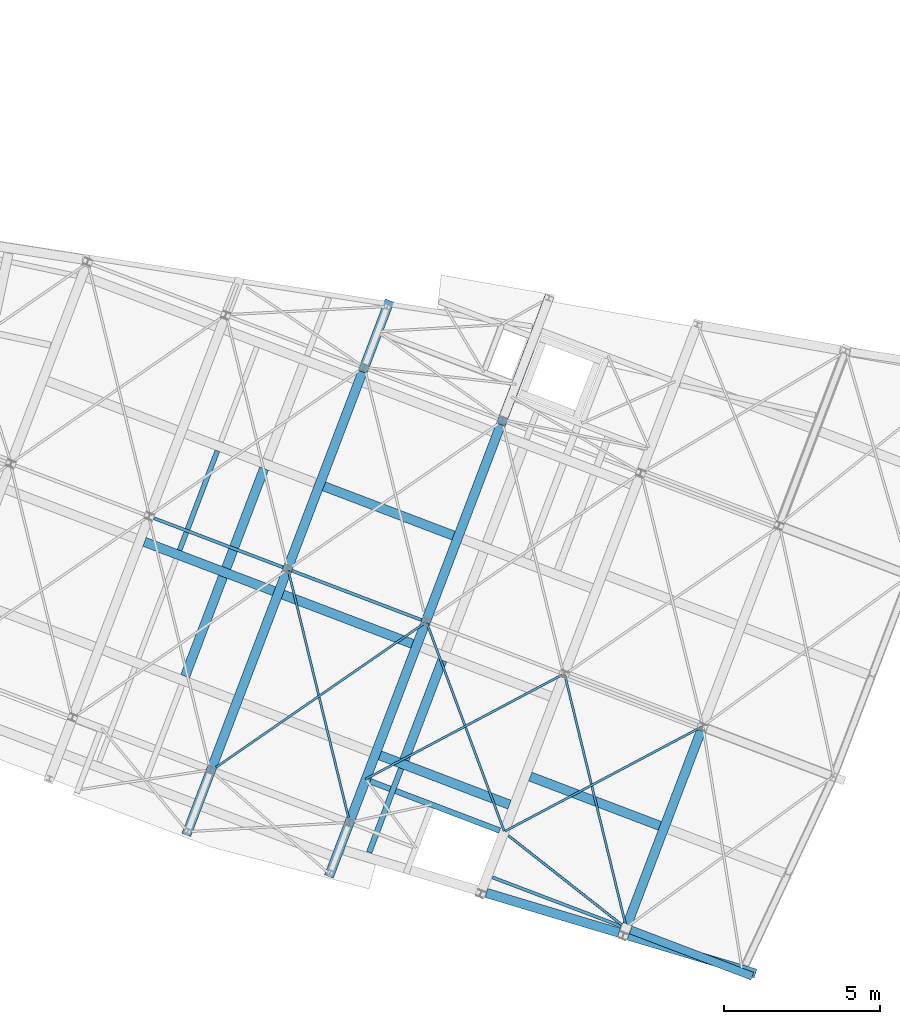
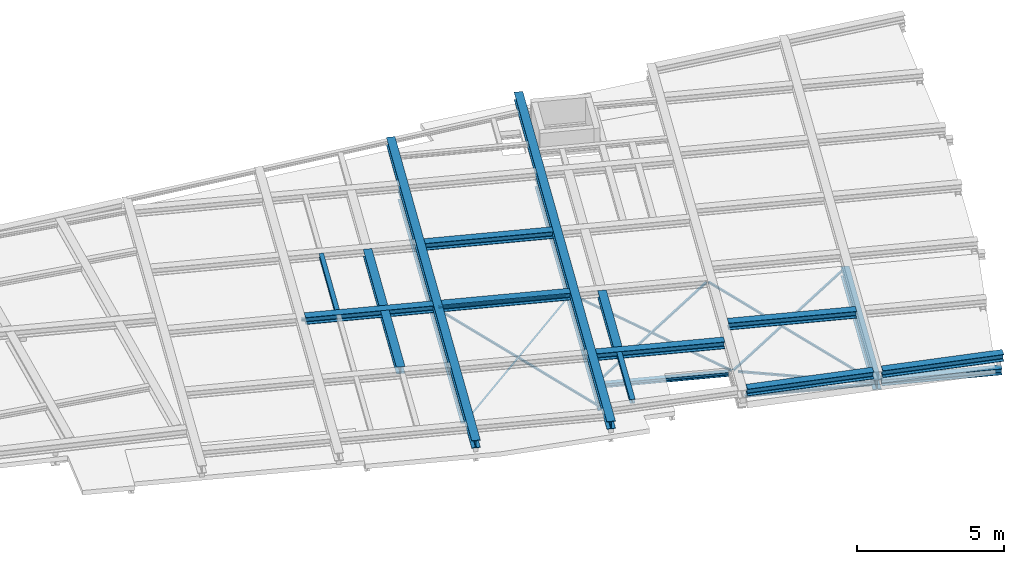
# One storey, part 14 of 21: 29 beams.
"""IFC2X3 building model written with IfcOpenShell, lengths in millimetres."""

from ifc_helpers import new_model, entity, si_unit, converted_unit, derived_unit, direction, frame, frame_2d, origin, place, context, subcontext, project, spatial, polyline, circle_curve, parameter, trimmed, segment, composite_curve, i_section, outline, extrude, material, type_object, element, save


model = new_model("IFC2X3")

# Units and contexts
model_context = context("Model", 3, precision=0.01, world=origin(), true_north=direction((6.123233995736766e-17, 1.0)))
body_context = subcontext(model_context, "Body", "Model", "MODEL_VIEW")
ifc_project = project(units=[si_unit("LENGTHUNIT", "METRE", prefix="MILLI"), converted_unit("PLANEANGLEUNIT", "DEGREE", entity("IfcPlaneAngleMeasure", 0.017453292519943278), si_unit("PLANEANGLEUNIT", "RADIAN"), dimensions=[0, 0, 0, 0, 0, 0, 0]), si_unit("AREAUNIT", "SQUARE_METRE"), derived_unit("THERMALTRANSMITTANCEUNIT", [(si_unit("MASSUNIT", "GRAM", prefix="KILO"), 1), (si_unit("THERMODYNAMICTEMPERATUREUNIT", "KELVIN"), -1), (si_unit("TIMEUNIT", "SECOND"), -3)])], contexts=[model_context])

# Site, building, storey
site_placement = place(None, frame((-72937.88054949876, 11621.45624098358, 0.0), z_axis=(0.0, 0.0, 1.0), x_axis=(0.9346418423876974, -0.35559053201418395, 0.0)))
site = spatial("IfcSite", under=ifc_project, at=site_placement, Name="Default", CompositionType="ELEMENT")
building_placement = place(site_placement, origin())
building = spatial("IfcBuilding", under=site, at=building_placement, CompositionType="ELEMENT")
storey_placement = place(building_placement, frame((0.0, 0.0, 4250.0)))
storey = spatial("IfcBuildingStorey", under=building, at=storey_placement, Name="01 eerste verdieping", CompositionType="ELEMENT", Elevation=4250.0)

# Beams
ifc_material_1 = material(Name="metaal_staal_generiek")
beam_type_1 = type_object("IfcBeamType", Name="DIE38", PredefinedType="BEAM")
beam_1_placement = place(storey_placement, frame((52840.0, 15000.0, -80.0), z_axis=(0.0, 0.0, 1.0), x_axis=(0.0, 1.0, 0.0)))
element("IfcBeam", 1, at=beam_1_placement, inside=storey, type_object=beam_type_1, material=ifc_material_1, Name="28.11_Stalen balk HEA", ObjectType="stalen balk HEA profiel", context=body_context, shape_type="SweptSolid", body=[
    extrude(i_section(OverallWidth=300.0000000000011, OverallDepth=369.9999999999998, WebThickness=10.999999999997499, FlangeThickness=19.000000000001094, FilletRadius=26.999999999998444, at=frame_2d((2.7000623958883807e-13, -8.65441052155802e-12), x_axis=(0.0, 1.0))), frame((125.0, 0.0, -185.0), z_axis=(1.0, 0.0, 0.0), x_axis=(0.0, 0.0, -1.0)), (0.0, 0.0, 1.0), 13497.300000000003),
])
beam_2_placement = place(storey_placement, frame((48110.0, 15000.0, -80.0), z_axis=(0.0, 0.0, 1.0), x_axis=(0.0, 1.0, 0.0)))
element("IfcBeam", 2, at=beam_2_placement, inside=storey, type_object=beam_type_1, material=ifc_material_1, Name="28.11_Stalen balk HEA", ObjectType="stalen balk HEA profiel", context=body_context, shape_type="SweptSolid", body=[
    extrude(i_section(OverallWidth=300.0000000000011, OverallDepth=369.9999999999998, WebThickness=10.999999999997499, FlangeThickness=19.000000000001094, FilletRadius=26.999999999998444, at=frame_2d((2.7000623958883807e-13, 8.65441052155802e-12), x_axis=(0.0, 1.0))), frame((125.0, 0.0, -185.0), z_axis=(1.0, 0.0, 0.0), x_axis=(0.0, 0.0, -1.0)), (0.0, 0.0, 1.0), 13497.300000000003),
])
beam_type_2 = type_object("IfcBeamType", Name="DIE10", PredefinedType="BEAM")
beam_3_placement = place(storey_placement, frame((43380.0, 21880.0, -80.0)))
element("IfcBeam", 3, at=beam_3_placement, inside=storey, type_object=beam_type_2, material=ifc_material_1, Name="28.11_Stalen balk HEA", ObjectType="stalen balk HEA profiel", context=body_context, shape_type="SweptSolid", body=[
    extrude(i_section(OverallWidth=99.99999999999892, OverallDepth=95.99999999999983, WebThickness=4.999999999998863, FlangeThickness=8.000000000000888, FilletRadius=12.000000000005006, at=frame_2d((1.623590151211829e-12, 2.1671553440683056e-12), x_axis=(0.0, 1.0))), frame((162.6999999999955, 0.0, -218.0), z_axis=(1.0, 0.0, 0.0), x_axis=(0.0, 0.0, -1.0)), (0.0, 0.0, 1.0), 4404.600000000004),
])
beam_4_placement = place(storey_placement, frame((48110.0, 21880.0, -80.0)))
element("IfcBeam", 4, at=beam_4_placement, inside=storey, type_object=beam_type_2, material=ifc_material_1, Name="28.11_Stalen balk HEA", ObjectType="stalen balk HEA profiel", context=body_context, shape_type="SweptSolid", body=[
    extrude(i_section(OverallWidth=99.99999999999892, OverallDepth=95.99999999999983, WebThickness=4.999999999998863, FlangeThickness=8.000000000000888, FilletRadius=12.000000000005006, at=frame_2d((1.623590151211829e-12, 2.1671553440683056e-12), x_axis=(0.0, 1.0))), frame((162.6999999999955, 0.0, -218.0), z_axis=(1.0, 0.0, 0.0), x_axis=(0.0, 0.0, -1.0)), (0.0, 0.0, 1.0), 4417.300000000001),
])
beam_5_placement = place(storey_placement, frame((62300.0, 15000.0, -80.0), z_axis=(0.0, 0.0, 1.0), x_axis=(-1.0, 0.0, 0.0)))
element("IfcBeam", 5, at=beam_5_placement, inside=storey, type_object=beam_type_2, material=ifc_material_1, Name="28.11_Stalen balk HEA", ObjectType="stalen balk HEA profiel", context=body_context, shape_type="SweptSolid", body=[
    extrude(i_section(OverallWidth=100.0000000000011, OverallDepth=95.99999999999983, WebThickness=5.0000000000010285, FlangeThickness=8.000000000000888, FilletRadius=11.999999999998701, at=frame_2d((1.0835776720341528e-12, -1.0835776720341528e-12), x_axis=(0.0, 1.0))), frame((162.69999999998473, 0.0, -218.0), z_axis=(1.0, 0.0, 0.0), x_axis=(0.0, 0.0, -1.0)), (0.0, 0.0, 1.0), 4397.300000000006),
])
beam_type_3 = type_object("IfcBeamType", Name="DIE26", PredefinedType="BEAM")
beam_6_placement = place(storey_placement, frame((66520.0002742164, 15000.0, -80.0), z_axis=(0.0, 0.0, 1.0), x_axis=(-1.0, 0.0, 0.0)))
element("IfcBeam", 6, at=beam_6_placement, inside=storey, type_object=beam_type_3, material=ifc_material_1, Name="28.11_Stalen balk HEA", ObjectType="stalen balk HEA profiel", context=body_context, shape_type="SweptSolid", body=[
    extrude(i_section(OverallWidth=259.9999999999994, OverallDepth=250.00000000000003, WebThickness=7.50000000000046, FlangeThickness=12.500000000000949, FilletRadius=24.000000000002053, at=frame_2d((2.7000623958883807e-13, -1.0800249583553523e-12), x_axis=(0.0, 1.0))), frame((-99.29986289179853, 0.0, -125.0), z_axis=(1.0, 0.0, 0.0), x_axis=(0.0, 0.0, -1.0)), (0.0, 0.0, 1.0), 4156.6),
])
beam_type_4 = type_object("IfcBeamType", Name="L70x7", PredefinedType="NOTDEFINED")
beam_7_placement = place(storey_placement, frame((57570.0, 21880.0, -270.0), z_axis=(0.0, 0.0, 1.0), x_axis=(-0.6588990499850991, -0.7522313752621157, 0.0)))
element("IfcBeam", 7, at=beam_7_placement, inside=storey, type_object=beam_type_4, material=ifc_material_1, Name="28.11_SF_WVB-L-Gelijkzijdig:L70x7", ObjectType="28.11_SF_WVB-L-Gelijkzijdig:L70x7", context=body_context, shape_type="SweptSolid", body=[
    extrude(outline(composite_curve([segment(polyline([(-26.444444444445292, -43.55555555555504), (-23.944444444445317, -43.55555555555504)]), True, "CONTINUOUS"), segment(trimmed(circle_curve(frame_2d((-23.944444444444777, -39.05555555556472), x_axis=(0.0, -1.0)), 4.499999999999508), [parameter(0.0)], [parameter(90.00000000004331)], True, "PARAMETER"), True, "CONTINUOUS"), segment(polyline([(-19.444444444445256, -39.05555555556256), (-19.444444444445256, 10.444444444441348)]), True, "CONTINUOUS"), segment(trimmed(circle_curve(frame_2d((-10.444444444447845, 10.444444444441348), x_axis=(-1.0, 0.0)), 8.999999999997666), [parameter(269.99999999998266)], [parameter(0.0)], True, "PARAMETER"), False, "CONTINUOUS"), segment(polyline([(-10.444444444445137, 19.444444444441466), (39.05555555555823, 19.444444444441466)]), True, "CONTINUOUS"), segment(trimmed(circle_curve(frame_2d((39.05555555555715, 23.944444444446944), x_axis=(0.0, -1.0)), 4.500000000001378), [parameter(0.0)], [parameter(89.99999999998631)], True, "PARAMETER"), True, "CONTINUOUS"), segment(polyline([(43.55555555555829, 23.944444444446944), (43.55555555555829, 26.444444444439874)]), True, "CONTINUOUS"), segment(polyline([(43.55555555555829, 26.444444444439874), (-26.444444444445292, 26.444444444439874)]), True, "CONTINUOUS"), segment(polyline([(-26.444444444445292, 26.444444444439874), (-26.444444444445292, -43.55555555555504)]), True, "CONTINUOUS")], self_intersect=False)), frame((61.52108460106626, -6.744444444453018, -6.7444444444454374), z_axis=(1.0, 0.0, 0.0), x_axis=(0.0, 0.0, -1.0)), (0.0, 0.0, 1.0), 7117.100000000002),
])
beam_8_placement = place(storey_placement, frame((52840.0, 15000.0, -270.0), z_axis=(0.0, 0.0, 1.0), x_axis=(-0.5665288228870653, 0.8240419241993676, 0.0)))
element("IfcBeam", 8, at=beam_8_placement, inside=storey, type_object=beam_type_4, material=ifc_material_1, Name="28.11_SF_WVB-L-Gelijkzijdig:L70x7", ObjectType="28.11_SF_WVB-L-Gelijkzijdig:L70x7", context=body_context, shape_type="SweptSolid", body=[
    extrude(outline(composite_curve([segment(polyline([(-26.444444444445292, -43.55555555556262), (-23.944444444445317, -43.55555555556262)]), True, "CONTINUOUS"), segment(trimmed(circle_curve(frame_2d((-23.94444444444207, -39.05555555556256), x_axis=(0.0, -1.0)), 4.499999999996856), [parameter(0.0)], [parameter(90.00000000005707)], True, "PARAMETER"), True, "CONTINUOUS"), segment(polyline([(-19.444444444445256, -39.055555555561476), (-19.444444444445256, 10.44444444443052)]), True, "CONTINUOUS"), segment(trimmed(circle_curve(frame_2d((-10.44444444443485, 10.444444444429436), x_axis=(-1.0, 0.0)), 9.000000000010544), [parameter(270.00000000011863)], [parameter(0.0)], True, "PARAMETER"), False, "CONTINUOUS"), segment(polyline([(-10.444444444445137, 19.44444444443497), (39.05555555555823, 19.44444444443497)]), True, "CONTINUOUS"), segment(trimmed(circle_curve(frame_2d((39.055555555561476, 23.94444444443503), x_axis=(0.0, -1.0)), 4.499999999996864), [parameter(0.0)], [parameter(90.00000000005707)], True, "PARAMETER"), True, "CONTINUOUS"), segment(polyline([(43.55555555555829, 23.944444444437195), (43.55555555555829, 26.444444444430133)]), True, "CONTINUOUS"), segment(polyline([(43.55555555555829, 26.444444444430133), (-26.444444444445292, 26.444444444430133)]), True, "CONTINUOUS"), segment(polyline([(-26.444444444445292, 26.444444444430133), (-26.444444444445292, -43.55555555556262)]), True, "CONTINUOUS")], self_intersect=False)), frame((177.94488537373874, -6.744444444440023, -6.7444444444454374), z_axis=(1.0, 0.0, 0.0), x_axis=(0.0, 0.0, -1.0)), (0.0, 0.0, 1.0), 8109.699999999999),
])
beam_9_placement = place(storey_placement, frame((48110.0, 15000.0, -270.0), z_axis=(0.0, 0.0, 1.0), x_axis=(0.5665288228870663, 0.824041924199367, 0.0)))
element("IfcBeam", 9, at=beam_9_placement, inside=storey, type_object=beam_type_4, material=ifc_material_1, Name="28.11_SF_WVB-L-Gelijkzijdig:L70x7", ObjectType="28.11_SF_WVB-L-Gelijkzijdig:L70x7", context=body_context, shape_type="SweptSolid", body=[
    extrude(outline(composite_curve([segment(polyline([(-26.444444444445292, -43.55555555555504), (-23.944444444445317, -43.55555555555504)]), True, "CONTINUOUS"), segment(trimmed(circle_curve(frame_2d((-23.94444444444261, -39.05555555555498), x_axis=(0.0, -1.0)), 4.499999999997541), [parameter(0.0)], [parameter(90.00000000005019)], True, "PARAMETER"), True, "CONTINUOUS"), segment(polyline([(-19.444444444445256, -39.05555555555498), (-19.444444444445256, 10.444444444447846)]), True, "CONTINUOUS"), segment(trimmed(circle_curve(frame_2d((-10.44444444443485, 10.444444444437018), x_axis=(-1.0, 0.0)), 9.000000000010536), [parameter(270.0000000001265)], [parameter(0.0)], True, "PARAMETER"), False, "CONTINUOUS"), segment(polyline([(-10.444444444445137, 19.444444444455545), (39.05555555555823, 19.444444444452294)]), True, "CONTINUOUS"), segment(trimmed(circle_curve(frame_2d((39.055555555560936, 23.944444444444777), x_axis=(0.0, -1.0)), 4.499999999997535), [parameter(0.0)], [parameter(90.00000000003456)], True, "PARAMETER"), True, "CONTINUOUS"), segment(polyline([(43.55555555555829, 23.944444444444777), (43.55555555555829, 26.444444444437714)]), True, "CONTINUOUS"), segment(polyline([(43.55555555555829, 26.444444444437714), (-26.444444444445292, 26.444444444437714)]), True, "CONTINUOUS"), segment(polyline([(-26.444444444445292, 26.444444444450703), (-26.444444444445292, -43.55555555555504)]), True, "CONTINUOUS")], self_intersect=False)), frame((189.39488537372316, -6.744444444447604, -6.7444444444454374), z_axis=(1.0, 0.0, 0.0), x_axis=(0.0, 0.0, -1.0)), (0.0, 0.0, 1.0), 8119.300000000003),
])
beam_10_placement = place(storey_placement, frame((62300.00101093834, 21880.0, -270.0), z_axis=(0.0, 0.0, 1.0), x_axis=(-0.6588990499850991, -0.7522313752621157, 0.0)))
element("IfcBeam", 10, at=beam_10_placement, inside=storey, type_object=beam_type_4, material=ifc_material_1, Name="28.11_SF_WVB-L-Gelijkzijdig:L70x7", ObjectType="28.11_SF_WVB-L-Gelijkzijdig:L70x7", context=body_context, shape_type="SweptSolid", body=[
    extrude(outline(composite_curve([segment(polyline([(-26.444444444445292, -43.555555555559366), (-23.944444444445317, -43.555555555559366)]), True, "CONTINUOUS"), segment(trimmed(circle_curve(frame_2d((-23.944444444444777, -39.05555555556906), x_axis=(0.0, -1.0)), 4.499999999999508), [parameter(0.0)], [parameter(90.00000000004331)], True, "PARAMETER"), True, "CONTINUOUS"), segment(polyline([(-19.444444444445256, -39.055555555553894), (-19.444444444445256, 10.444444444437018)]), True, "CONTINUOUS"), segment(trimmed(circle_curve(frame_2d((-10.444444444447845, 10.444444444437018), x_axis=(-1.0, 0.0)), 8.999999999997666), [parameter(269.99999999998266)], [parameter(0.0)], True, "PARAMETER"), False, "CONTINUOUS"), segment(polyline([(-10.444444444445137, 19.444444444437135), (39.05555555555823, 19.444444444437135)]), True, "CONTINUOUS"), segment(trimmed(circle_curve(frame_2d((39.05555555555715, 23.944444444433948), x_axis=(0.0, -1.0)), 4.500000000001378), [parameter(0.0)], [parameter(89.99999999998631)], True, "PARAMETER"), True, "CONTINUOUS"), segment(polyline([(43.55555555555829, 23.944444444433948), (43.55555555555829, 26.444444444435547)]), True, "CONTINUOUS"), segment(polyline([(43.55555555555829, 26.444444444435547), (-26.444444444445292, 26.444444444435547)]), True, "CONTINUOUS"), segment(polyline([(-26.444444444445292, 26.444444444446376), (-26.444444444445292, -43.555555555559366)]), True, "CONTINUOUS")], self_intersect=False)), frame((0.021084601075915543, -6.744444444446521, -6.7444444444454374), z_axis=(1.0, 0.0, 0.0), x_axis=(0.0, 0.0, -1.0)), (0.0, 0.0, 1.0), 7126.100000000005),
])
beam_type_5 = type_object("IfcBeamType", Name="L70x7", PredefinedType="JOIST")
beam_11_placement = place(storey_placement, frame((57569.99949449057, 16480.00012850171, -270.0), z_axis=(0.0, 0.0, 1.0), x_axis=(-0.6588989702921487, 0.7522314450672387, 0.0)))
element("IfcBeam", 11, at=beam_11_placement, inside=storey, type_object=beam_type_5, material=ifc_material_1, Name="28.11_SF_WVB-L-Gelijkzijdig:L70x7", ObjectType="28.11_SF_WVB-L-Gelijkzijdig:L70x7", context=body_context, shape_type="SweptSolid", body=[
    extrude(outline(composite_curve([segment(polyline([(-26.444444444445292, -43.55555555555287), (-23.944444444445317, -43.55555555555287)]), True, "CONTINUOUS"), segment(trimmed(circle_curve(frame_2d((-23.94444444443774, -39.05555555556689), x_axis=(0.0, -1.0)), 4.4999999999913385), [parameter(0.0)], [parameter(90.0000000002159)], True, "PARAMETER"), True, "CONTINUOUS"), segment(polyline([(-19.444444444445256, -39.055555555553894), (-19.444444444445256, 10.444444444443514)]), True, "CONTINUOUS"), segment(trimmed(circle_curve(frame_2d((-10.444444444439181, 10.444444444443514), x_axis=(-1.0, 0.0)), 9.000000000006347), [parameter(270.0000000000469)], [parameter(0.0)], True, "PARAMETER"), False, "CONTINUOUS"), segment(polyline([(-10.444444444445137, 19.444444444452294), (39.05555555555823, 19.444444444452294)]), True, "CONTINUOUS"), segment(trimmed(circle_curve(frame_2d((39.05555555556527, 23.944444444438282), x_axis=(0.0, -1.0)), 4.499999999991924), [parameter(0.0)], [parameter(90.00000000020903)], True, "PARAMETER"), True, "CONTINUOUS"), segment(polyline([(43.55555555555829, 23.94444444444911), (43.55555555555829, 26.44444444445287)]), True, "CONTINUOUS"), segment(polyline([(43.55555555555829, 26.44444444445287), (-26.444444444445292, 26.44444444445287)]), True, "CONTINUOUS"), segment(polyline([(-26.444444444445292, 26.44444444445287), (-26.444444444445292, -43.55555555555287)]), True, "CONTINUOUS")], self_intersect=False)), frame((33.570751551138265, -6.744444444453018, -6.7444444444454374), z_axis=(1.0, 0.0, 0.0), x_axis=(0.0, 0.0, -1.0)), (0.0, 0.0, 1.0), 7088.100000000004),
])
beam_12_placement = place(storey_placement, frame((62300.0, 15000.0, -270.0), z_axis=(0.0, 0.0, 1.0), x_axis=(-0.566528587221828, 0.8240420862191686, 0.0)))
element("IfcBeam", 12, at=beam_12_placement, inside=storey, type_object=beam_type_5, material=ifc_material_1, Name="28.11_SF_WVB-L-Gelijkzijdig:L70x7", ObjectType="28.11_SF_WVB-L-Gelijkzijdig:L70x7", context=body_context, shape_type="SweptSolid", body=[
    extrude(outline(composite_curve([segment(polyline([(-26.444444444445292, -43.5555555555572), (-23.944444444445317, -43.5555555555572)]), True, "CONTINUOUS"), segment(trimmed(circle_curve(frame_2d((-23.94444444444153, -39.055555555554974), x_axis=(0.0, -1.0)), 4.499999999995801), [parameter(0.0)], [parameter(90.00000000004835)], True, "PARAMETER"), True, "CONTINUOUS"), segment(polyline([(-19.444444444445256, -39.055555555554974), (-19.444444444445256, 10.444444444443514)]), True, "CONTINUOUS"), segment(trimmed(circle_curve(frame_2d((-10.44444444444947, 10.444444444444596), x_axis=(-1.0, 0.0)), 8.999999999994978), [parameter(269.99999999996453)], [parameter(0.0)], True, "PARAMETER"), False, "CONTINUOUS"), segment(polyline([(-10.444444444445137, 19.444444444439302), (39.05555555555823, 19.444444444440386)]), True, "CONTINUOUS"), segment(trimmed(circle_curve(frame_2d((39.055555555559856, 23.944444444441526), x_axis=(0.0, -1.0)), 4.499999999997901), [parameter(0.0)], [parameter(90.00000000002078)], True, "PARAMETER"), True, "CONTINUOUS"), segment(polyline([(43.55555555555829, 23.944444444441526), (43.55555555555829, 26.444444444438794)]), True, "CONTINUOUS"), segment(polyline([(43.55555555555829, 26.444444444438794), (-26.444444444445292, 26.444444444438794)]), True, "CONTINUOUS"), segment(polyline([(-26.444444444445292, 26.444444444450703), (-26.444444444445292, -43.5555555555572)]), True, "CONTINUOUS")], self_intersect=False)), frame((89.99534324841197, -6.744444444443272, -6.7444444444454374), z_axis=(1.0, 0.0, 0.0), x_axis=(0.0, 0.0, -1.0)), (0.0, 0.0, 1.0), 8212.100000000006),
])
beam_type_6 = type_object("IfcBeamType", Name="HEA400", PredefinedType="BEAM")
beam_13_placement = place(storey_placement, frame((62300.0, 21755.0, -80.0), z_axis=(0.0, 0.0, 1.0), x_axis=(0.0, -1.0, 0.0)))
element("IfcBeam", 13, at=beam_13_placement, inside=storey, type_object=beam_type_6, material=ifc_material_1, Name="28.11_Stalen balk HEA", ObjectType="stalen balk HEA profiel", context=body_context, shape_type="SweptSolid", body=[
    extrude(i_section(OverallWidth=300.0000000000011, OverallDepth=390.0000000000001, WebThickness=10.999999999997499, FlangeThickness=19.000000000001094, FilletRadius=26.999999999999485, at=frame_2d((0.0, 1.7323031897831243e-11), x_axis=(0.0, 1.0))), frame((0.0, 0.0, -195.0), z_axis=(1.0, 0.0, 0.0), x_axis=(0.0, 0.0, -1.0)), (0.0, 0.0, 1.0), 6875.000000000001),
])
ifc_material_2 = material(Name="metaal_staal_profiel_s235")
beam_type_7 = type_object("IfcBeamType", Name="HEB320", PredefinedType="BEAM")
beam_14_placement = place(storey_placement, frame((52840.0, 13295.839397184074, 450.0), z_axis=(0.0, 0.0, 1.0), x_axis=(0.0, 1.0, 0.0)))
element("IfcBeam", 14, at=beam_14_placement, inside=storey, type_object=beam_type_7, material=ifc_material_2, Name="28.11_Stalen balk HEB", ObjectType="28.11_SF_BalkHEB:HEB320", context=body_context, shape_type="SweptSolid", body=[
    extrude(i_section(OverallWidth=300.0000000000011, OverallDepth=319.99999999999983, WebThickness=11.500000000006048, FlangeThickness=20.500000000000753, FilletRadius=26.999999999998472, at=frame_2d((5.400124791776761e-13, -8.65441052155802e-12), x_axis=(0.0, 1.0))), frame((-124.98509784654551, 0.0, -160.0), z_axis=(1.0, 0.0, 0.0), x_axis=(0.0, 0.0, -1.0)), (0.0, 0.0, 1.0), 19845.9),
])
beam_15_placement = place(storey_placement, frame((48110.0, 12915.614638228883, 450.0), z_axis=(0.0, 0.0, 1.0), x_axis=(0.0, 1.0, 0.0)))
element("IfcBeam", 15, at=beam_15_placement, inside=storey, type_object=beam_type_7, material=ifc_material_2, Name="28.11_Stalen balk HEB", ObjectType="28.11_SF_BalkHEB:HEB320", context=body_context, shape_type="SweptSolid", body=[
    extrude(i_section(OverallWidth=300.0000000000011, OverallDepth=319.99999999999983, WebThickness=11.500000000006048, FlangeThickness=20.500000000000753, FilletRadius=26.999999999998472, at=frame_2d((5.400124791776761e-13, 8.65441052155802e-12), x_axis=(0.0, 1.0))), frame((-124.98758226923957, 0.0, -160.0), z_axis=(1.0, 0.0, 0.0), x_axis=(0.0, 0.0, -1.0)), (0.0, 0.0, 1.0), 18270.099999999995),
])
beam_type_8 = type_object("IfcBeamType", Name="HEA300", PredefinedType="BEAM")
beam_16_placement = place(storey_placement, frame((62300.0, 18440.00012850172, 450.0), z_axis=(0.0, 0.0, 1.0), x_axis=(-1.0, 0.0, 0.0)))
element("IfcBeam", 16, at=beam_16_placement, inside=storey, type_object=beam_type_8, material=ifc_material_2, Name="28.11_Stalen balk HEA", ObjectType="stalen balk HEA profiel", context=body_context, shape_type="SweptSolid", body=[
    extrude(i_section(OverallWidth=300.0000000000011, OverallDepth=290.0000000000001, WebThickness=8.500000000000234, FlangeThickness=14.000000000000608, FilletRadius=27.000000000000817, at=frame_2d((0.0, -1.0800249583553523e-12), x_axis=(0.0, 1.0))), frame((150.0, 0.0, -145.0), z_axis=(1.0, 0.0, 0.0), x_axis=(0.0, 0.0, -1.0)), (0.0, 0.0, 1.0), 4429.999999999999),
])
for number, where, z_axis, x_axis, name in (
    (17, (52840.0, 24765.00012850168, 450.0), (0.0, 0.0, 1.0), (-1.0, 0.0, 0.0), "28.11_Stalen balk HEA"),
    (18, (52840.0, 21065.000128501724, 450.0), (0.0, 0.0, 1.0), (-1.0, 0.0, 0.0), "28.11_Stalen balk HEA"),
    (19, (48110.0, 21065.000128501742, 450.0), (0.0, 0.0, 1.0), (-1.0, 0.0, 0.0), "28.11_Stalen balk HEA"),
):
    element("IfcBeam", number, at=place(storey_placement, frame(where, z_axis=z_axis, x_axis=x_axis)), inside=storey, type_object=beam_type_8, material=ifc_material_2, Name=name, ObjectType="stalen balk HEA profiel", context=body_context, shape_type="SweptSolid", body=[
        extrude(i_section(OverallWidth=299.99999999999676, OverallDepth=290.0000000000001, WebThickness=8.500000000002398, FlangeThickness=14.000000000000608, FilletRadius=26.999999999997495, at=frame_2d((0.0, -2.1600499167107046e-12), x_axis=(0.0, 1.0))), frame((150.0, 0.0, -145.0), z_axis=(1.0, 0.0, 0.0), x_axis=(0.0, 0.0, -1.0)), (0.0, 0.0, 1.0), 4429.999999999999),
    ])
beam_17_placement = place(storey_placement, frame((57570.0, 17365.000128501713, 450.0), z_axis=(0.0, 0.0, 1.0), x_axis=(-1.0, 0.0, 0.0)))
element("IfcBeam", 20, at=beam_17_placement, inside=storey, type_object=beam_type_8, material=ifc_material_2, Name="28.11_Stalen balk HEA", ObjectType="stalen balk HEA profiel", context=body_context, shape_type="SweptSolid", body=[
    extrude(i_section(OverallWidth=300.0000000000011, OverallDepth=290.0000000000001, WebThickness=8.500000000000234, FlangeThickness=14.000000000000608, FilletRadius=27.000000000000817, at=frame_2d((0.0, -1.0800249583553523e-12), x_axis=(0.0, 1.0))), frame((150.0, 0.0, -145.0), z_axis=(1.0, 0.0, 0.0), x_axis=(0.0, 0.0, -1.0)), (0.0, 0.0, 1.0), 4429.999999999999),
])
beam_18_placement = place(storey_placement, frame((46270.0, 17365.00012850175, 450.0), z_axis=(0.0, 0.0, 1.0), x_axis=(0.0, 1.0, 0.0)))
element("IfcBeam", 21, at=beam_18_placement, inside=storey, type_object=beam_type_8, material=ifc_material_2, Name="28.11_Stalen balk HEA", ObjectType="stalen balk HEA profiel", context=body_context, shape_type="SweptSolid", body=[
    extrude(i_section(OverallWidth=300.0000000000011, OverallDepth=290.0000000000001, WebThickness=8.499999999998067, FlangeThickness=14.000000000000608, FilletRadius=26.999999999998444, at=frame_2d((1.6200374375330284e-12, 0.0), x_axis=(0.0, 1.0))), frame((150.0, 0.0, -145.0), z_axis=(1.0, 0.0, 0.0), x_axis=(0.0, 0.0, -1.0)), (0.0, 0.0, 1.0), 3400.000000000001),
])
beam_19_placement = place(storey_placement, frame((46270.0, 21065.000128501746, 450.0), z_axis=(0.0, 0.0, 1.0), x_axis=(0.0, 1.0, 0.0)))
element("IfcBeam", 22, at=beam_19_placement, inside=storey, type_object=beam_type_8, material=ifc_material_2, Name="28.11_Stalen balk HEA", ObjectType="stalen balk HEA profiel", context=body_context, shape_type="SweptSolid", body=[
    extrude(i_section(OverallWidth=300.0000000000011, OverallDepth=290.0000000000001, WebThickness=8.499999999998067, FlangeThickness=14.000000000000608, FilletRadius=26.999999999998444, at=frame_2d((1.6200374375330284e-12, 0.0), x_axis=(0.0, 1.0))), frame((150.0, 0.0, -145.0), z_axis=(1.0, 0.0, 0.0), x_axis=(0.0, 0.0, -1.0)), (0.0, 0.0, 1.0), 3400.0000000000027),
])
beam_20_placement = place(storey_placement, frame((53770.0, 17365.00012850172, 450.0), z_axis=(0.0, 0.0, 1.0), x_axis=(0.0, 1.0, 0.0)))
element("IfcBeam", 23, at=beam_20_placement, inside=storey, type_object=beam_type_8, material=ifc_material_2, Name="28.11_Stalen balk HEA", ObjectType="stalen balk HEA profiel", context=body_context, shape_type="SweptSolid", body=[
    extrude(i_section(OverallWidth=300.0000000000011, OverallDepth=290.0000000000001, WebThickness=8.499999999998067, FlangeThickness=14.000000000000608, FilletRadius=26.999999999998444, at=frame_2d((1.6200374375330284e-12, 8.65441052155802e-12), x_axis=(0.0, 1.0))), frame((150.0, 0.0, -145.0), z_axis=(1.0, 0.0, 0.0), x_axis=(0.0, 0.0, -1.0)), (0.0, 0.0, 1.0), 3400.000000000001),
])
beam_21_placement = place(storey_placement, frame((66561.83109274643, 15104.907338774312, 450.0), z_axis=(0.0, 0.0, 1.0), x_axis=(-0.9973760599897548, -0.0723947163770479, 0.0)))
element("IfcBeam", 24, at=beam_21_placement, inside=storey, type_object=beam_type_8, material=ifc_material_2, Name="28.11_Stalen balk HEA", ObjectType="stalen balk HEA profiel", context=body_context, shape_type="SweptSolid", body=[
    extrude(i_section(OverallWidth=300.0000000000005, OverallDepth=290.0000000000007, WebThickness=8.500000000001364, FlangeThickness=14.000000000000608, FilletRadius=27.000000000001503, at=frame_2d((0.0, -1.0800249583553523e-12), x_axis=(0.0, 1.0))), frame((-124.97834898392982, 0.0, -145.0), z_axis=(1.0, 0.0, 0.0), x_axis=(0.0, 0.0, -1.0)), (0.0, 0.0, 1.0), 4236.700000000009),
])
beam_22_placement = place(storey_placement, frame((62300.0, 14795.561580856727, 450.0), z_axis=(0.0, 0.0, 1.0), x_axis=(-0.9973760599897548, -0.0723947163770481, 0.0)))
element("IfcBeam", 25, at=beam_22_placement, inside=storey, type_object=beam_type_8, material=ifc_material_2, Name="28.11_Stalen balk HEA", ObjectType="stalen balk HEA profiel", context=body_context, shape_type="SweptSolid", body=[
    extrude(i_section(OverallWidth=300.0000000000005, OverallDepth=290.0000000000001, WebThickness=8.500000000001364, FlangeThickness=14.000000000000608, FilletRadius=27.0000000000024, at=frame_2d((2.7000623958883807e-13, 1.0800249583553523e-12), x_axis=(0.0, 1.0))), frame((152.52194413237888, 0.0, -145.0), z_axis=(1.0, 0.0, 0.0), x_axis=(0.0, 0.0, -1.0)), (0.0, 0.0, 1.0), 4428.600000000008),
])
beam_type_9 = type_object("IfcBeamType", Name="HEA180", PredefinedType="BEAM")
beam_23_placement = place(storey_placement, frame((57569.99949449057, 16480.00012850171, -249.9720343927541), z_axis=(-5.912390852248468e-06, 0.0, 1.0), x_axis=(-1.0, 0.0, -5.912390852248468e-06)))
element("IfcBeam", 26, at=beam_23_placement, inside=storey, type_object=beam_type_9, material=ifc_material_1, Name="28.11_Stalen balk HEA", ObjectType="stalen balk HEA profiel", context=body_context, shape_type="SweptSolid", body=[
    extrude(i_section(OverallWidth=180.00000000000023, OverallDepth=171.00000000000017, WebThickness=6.000000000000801, FlangeThickness=9.50000000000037, FilletRadius=15.000000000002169, at=frame_2d((-8.100187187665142e-13, -3.254285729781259e-12), x_axis=(0.0, 1.0))), frame((150.00079542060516, 0.0, -85.49999999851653), z_axis=(1.0, 0.0, 0.0), x_axis=(0.0, 0.0, -1.0)), (0.0, 0.0, 1.0), 4429.99769400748),
])
beam_24_placement = place(storey_placement, frame((53770.0, 14176.410033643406, 450.0), z_axis=(0.0, 0.0, 1.0), x_axis=(0.0, 1.0, 0.0)))
element("IfcBeam", 27, at=beam_24_placement, inside=storey, type_object=beam_type_9, material=ifc_material_2, Name="28.11_Stalen balk HEA", ObjectType="stalen balk HEA profiel", context=body_context, shape_type="SweptSolid", body=[
    extrude(i_section(OverallWidth=180.0000000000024, OverallDepth=171.00000000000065, WebThickness=5.999999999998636, FlangeThickness=9.500000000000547, FilletRadius=14.999999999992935, at=frame_2d((-2.7000623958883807e-13, -4.334310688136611e-12), x_axis=(0.0, 1.0))), frame((169.64504742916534, 0.0, -85.50000000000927), z_axis=(1.0, 0.0, 0.0), x_axis=(0.0, 0.0, -1.0)), (0.0, 0.0, 1.0), 2868.9000000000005),
])
beam_type_10 = type_object("IfcBeamType", Name="HEA160", PredefinedType="BEAM")
beam_25_placement = place(storey_placement, frame((44672.13926068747, 21065.000128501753, 450.0), z_axis=(0.0, 0.0, 1.0), x_axis=(0.0, 1.0, 0.0)))
element("IfcBeam", 28, at=beam_25_placement, inside=storey, type_object=beam_type_10, material=ifc_material_2, Name="28.11_Stalen balk HEA", ObjectType="stalen balk HEA profiel", context=body_context, shape_type="SweptSolid", body=[
    extrude(i_section(OverallWidth=159.99999999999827, OverallDepth=152.00000000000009, WebThickness=5.999999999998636, FlangeThickness=9.00000000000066, FilletRadius=14.999999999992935, at=frame_2d((5.400124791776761e-13, 8.661515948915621e-12), x_axis=(0.0, 1.0))), frame((150.0, 0.0, -76.0), z_axis=(1.0, 0.0, 0.0), x_axis=(0.0, 0.0, -1.0)), (0.0, 0.0, 1.0), 3399.9999999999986),
])
beam_type_11 = type_object("IfcBeamType", Name="K80x4", PredefinedType="JOIST")
beam_26_placement = place(storey_placement, frame((57729.219002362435, 14988.783568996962, -311.5952722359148), z_axis=(0.0, 0.0, 1.0), x_axis=(-0.9543722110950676, 0.2986196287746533, 0.0)))
element("IfcBeam", 29, at=beam_26_placement, inside=storey, type_object=beam_type_11, material=ifc_material_1, Name="28.11_SF_BalkKokerGelijkzijdig:K80x4", ObjectType="28.11_SF_BalkKokerGelijkzijdig:K80x4", context=body_context, shape_type="SweptSolid", body=[
    extrude(outline(composite_curve([segment(trimmed(circle_curve(frame_2d((-34.0, -34.0), x_axis=(1.0, 0.0)), 6.0), [parameter(179.99999999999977)], [parameter(269.99999999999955)], True, "PARAMETER"), True, "CONTINUOUS"), segment(polyline([(-34.0, -40.0), (34.0, -40.0)]), True, "CONTINUOUS"), segment(trimmed(circle_curve(frame_2d((34.0, -34.0), x_axis=(1.0, 0.0)), 6.0), [parameter(269.9999999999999)], [parameter(1.0177774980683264e-13)], True, "PARAMETER"), True, "CONTINUOUS"), segment(polyline([(40.0, -34.0), (40.0, 34.0)]), True, "CONTINUOUS"), segment(trimmed(circle_curve(frame_2d((34.0, 34.0), x_axis=(1.0, 0.0)), 6.0), [parameter(359.99999999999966)], [parameter(89.99999999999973)], True, "PARAMETER"), True, "CONTINUOUS"), segment(polyline([(34.0, 40.0), (-34.0, 40.0)]), True, "CONTINUOUS"), segment(trimmed(circle_curve(frame_2d((-34.0, 34.0), x_axis=(1.0, 0.0)), 6.0), [parameter(90.00000000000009)], [parameter(180.00000000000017)], True, "PARAMETER"), True, "CONTINUOUS"), segment(polyline([(-40.0, 34.0), (-40.0, -34.0)]), True, "CONTINUOUS")], self_intersect=False), holes=[composite_curve([segment(polyline([(32.0, -36.0), (-32.0, -36.0)]), True, "CONTINUOUS"), segment(trimmed(circle_curve(frame_2d((-32.0, -32.0), x_axis=(1.0, 0.0)), 4.0), [parameter(180.0000000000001)], [parameter(269.9999999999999)], True, "PARAMETER"), False, "CONTINUOUS"), segment(polyline([(-36.0, -32.0), (-36.0, 32.0)]), True, "CONTINUOUS"), segment(trimmed(circle_curve(frame_2d((-32.0, 32.0), x_axis=(1.0, 0.0)), 4.0), [parameter(90.00000000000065)], [parameter(180.00000000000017)], True, "PARAMETER"), False, "CONTINUOUS"), segment(polyline([(-32.0, 36.0), (32.0, 36.0)]), True, "CONTINUOUS"), segment(trimmed(circle_curve(frame_2d((32.0, 32.0), x_axis=(1.0, 0.0)), 4.0), [parameter(359.9999999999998)], [parameter(90.00000000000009)], True, "PARAMETER"), False, "CONTINUOUS"), segment(polyline([(36.0, 32.0), (36.0, -32.0)]), True, "CONTINUOUS"), segment(trimmed(circle_curve(frame_2d((32.0, -32.0), x_axis=(1.0, 0.0)), 4.0), [parameter(270.0000000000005)], [parameter(3.053332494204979e-13)], True, "PARAMETER"), False, "CONTINUOUS")], self_intersect=False)]), frame((-4263.257855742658, -1375.629574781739, 41.595272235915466), z_axis=(1.0, 0.0, 0.0), x_axis=(0.0, 0.0, 1.0)), (0.0, 0.0, 1.0), 4679.500000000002),
])

save(model, "model.ifc")
